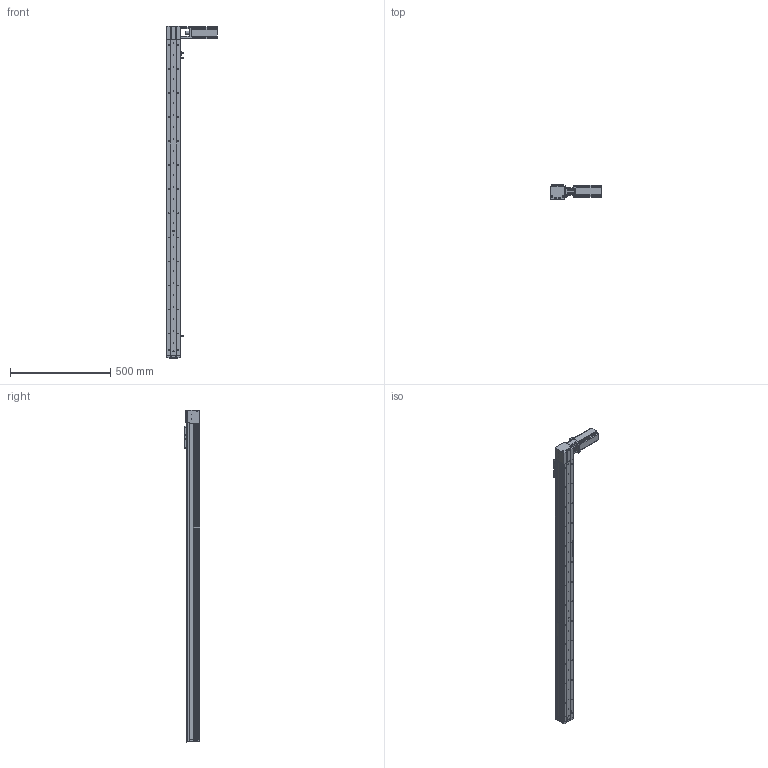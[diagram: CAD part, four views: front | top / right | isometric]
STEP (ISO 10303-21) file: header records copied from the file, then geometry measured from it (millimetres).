
FILE_DESCRIPTION (( 'STEP AP214' ), '1' );
FILE_NAME ('KSD68BS-S1400-MRT-CR.STEP', '2019-08-27T07:28:23', ( '微软用户' ), ( '微软中国' ), 'SwSTEP 2.0', 'SolidWorks 2014', '' );
FILE_SCHEMA (( 'AUTOMOTIVE_DESIGN' ));
Length unit declared in the file: millimetre
Products named in the file (13): KSD68BS 1400行程盖板全封闭; 68遵裔啣揤啣1; 68宽单导轨全封闭丝杆传动安装板1防护罩; KSD68BS 1400行程侧板全封闭; 68宽单导轨全封闭同步带端板; 68单导轨全封闭同步带电机座左; 68单导轨全封闭同步带安装板; 感应片68宽全封闭; U倰嫖萇EEㄜSX672; 台达ECMA－C20604AS伺服电机（400W); KSD68BS 1400行程底板全封闭; KSD68BS-S1400-MRT-CR; 100遵鎮湛假蚾啣1
Assembly tree (16 placements, depth 2):
  KSD68BS-S1400-MRT-CR
    KSD68BS 1400行程底板全封闭
    台达ECMA－C20604AS伺服电机（400W)
    U倰嫖萇EEㄜSX672  x3
    感应片68宽全封闭
    68单导轨全封闭同步带安装板
    68单导轨全封闭同步带电机座左
    68宽单导轨全封闭同步带端板
    KSD68BS 1400行程侧板全封闭  x2
    68宽单导轨全封闭丝杆传动安装板1防护罩
    68遵裔啣揤啣1  x2
    KSD68BS 1400行程盖板全封闭
    100遵鎮湛假蚾啣1
Bounding box: 252.7 x 77 x 1658.1 mm (x, y, z)
Volume: 3023584.3 mm3; surface area: 1188268 mm2
Topology: 17 solids, 17 shells, 1529 faces, 4398 edges, 2800 vertices
Faces by surface type: cylinder 743, plane 602, cone 184
Entity records: 49682 total; most frequent: CARTESIAN_POINT 8637, DIRECTION 7329, ORIENTED_EDGE 7016, EDGE_CURVE 3508, AXIS2_PLACEMENT_3D 2672, VERTEX_POINT 2298, LINE 1985, VECTOR 1985
